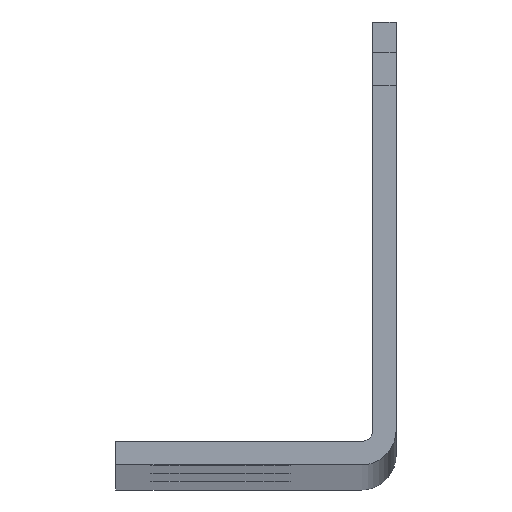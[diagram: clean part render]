
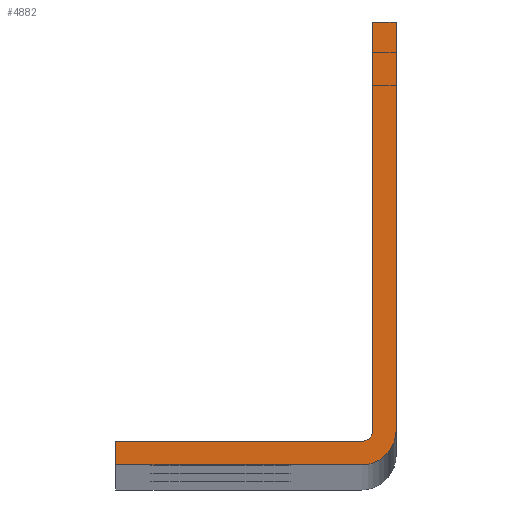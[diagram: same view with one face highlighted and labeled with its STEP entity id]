
A CAD part, top view. The second image highlights one B-rep face of the part: STEP entity #4882.
In plain terms, the highlighted planar face has unit normal (0, 0, 1).
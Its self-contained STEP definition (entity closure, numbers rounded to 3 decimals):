
#238=LINE('',#7483,#466);
#287=LINE('',#7935,#515);
#306=LINE('',#8133,#534);
#307=LINE('',#8137,#535);
#308=LINE('',#8140,#536);
#309=LINE('',#8142,#537);
#466=VECTOR('',#5987,1000.);
#515=VECTOR('',#6390,1000.);
#534=VECTOR('',#6703,1000.);
#535=VECTOR('',#6706,1000.);
#536=VECTOR('',#6709,1000.);
#537=VECTOR('',#6710,1000.);
#1376=ORIENTED_EDGE('',*,*,#2316,.F.);
#1377=ORIENTED_EDGE('',*,*,#2317,.F.);
#1378=ORIENTED_EDGE('',*,*,#2056,.F.);
#1379=ORIENTED_EDGE('',*,*,#2318,.T.);
#1380=ORIENTED_EDGE('',*,*,#2281,.T.);
#1381=ORIENTED_EDGE('',*,*,#2319,.T.);
#1382=ORIENTED_EDGE('',*,*,#2320,.T.);
#1383=ORIENTED_EDGE('',*,*,#2321,.T.);
#2056=EDGE_CURVE('',#2656,#2657,#238,.T.);
#2281=EDGE_CURVE('',#2882,#2880,#287,.T.);
#2316=EDGE_CURVE('',#2914,#2915,#306,.T.);
#2317=EDGE_CURVE('',#2657,#2914,#3304,.T.);
#2318=EDGE_CURVE('',#2656,#2882,#307,.T.);
#2319=EDGE_CURVE('',#2880,#2916,#3305,.F.);
#2320=EDGE_CURVE('',#2916,#2917,#308,.T.);
#2321=EDGE_CURVE('',#2917,#2915,#309,.T.);
#2656=VERTEX_POINT('',#7484);
#2657=VERTEX_POINT('',#7485);
#2880=VERTEX_POINT('',#7933);
#2882=VERTEX_POINT('',#7936);
#2914=VERTEX_POINT('',#8134);
#2915=VERTEX_POINT('',#8135);
#2916=VERTEX_POINT('',#8139);
#2917=VERTEX_POINT('',#8141);
#3304=CIRCLE('',#5496,4.699);
#3305=CIRCLE('',#5497,1.524);
#3881=EDGE_LOOP('',(#1376,#1377,#1378,#1379,#1380,#1381,#1382,#1383));
#4565=FACE_BOUND('',#3881,.T.);
#4693=PLANE('',#5495);
#4882=ADVANCED_FACE('',(#4565),#4693,.T.);
#5495=AXIS2_PLACEMENT_3D('',#8132,#6701,#6702);
#5496=AXIS2_PLACEMENT_3D('',#8136,#6704,#6705);
#5497=AXIS2_PLACEMENT_3D('',#8138,#6707,#6708);
#5987=DIRECTION('',(0.,-1.,0.));
#6390=DIRECTION('',(0.,-1.,0.));
#6701=DIRECTION('',(0.,0.,1.));
#6702=DIRECTION('',(1.,0.,0.));
#6703=DIRECTION('',(-1.,0.,0.));
#6704=DIRECTION('',(0.,0.,-1.));
#6705=DIRECTION('',(0.,1.,0.));
#6706=DIRECTION('',(-1.,0.,0.));
#6707=DIRECTION('',(0.,0.,1.));
#6708=DIRECTION('',(1.,0.,0.));
#6709=DIRECTION('',(-1.,0.,0.));
#6710=DIRECTION('',(0.,-1.,0.));
#7483=CARTESIAN_POINT('',(19.05,2.806,977.9));
#7484=CARTESIAN_POINT('',(19.05,60.223,977.9));
#7485=CARTESIAN_POINT('',(19.05,4.699,977.9));
#7933=CARTESIAN_POINT('',(15.875,4.699,977.9));
#7935=CARTESIAN_POINT('',(15.875,2.806,977.9));
#7936=CARTESIAN_POINT('',(15.875,60.223,977.9));
#8132=CARTESIAN_POINT('',(19.05,3.175,977.9));
#8133=CARTESIAN_POINT('',(19.05,0.,977.9));
#8134=CARTESIAN_POINT('',(14.351,0.,977.9));
#8135=CARTESIAN_POINT('',(-19.05,0.,977.9));
#8136=CARTESIAN_POINT('',(14.351,4.699,977.9));
#8137=CARTESIAN_POINT('',(19.05,60.223,977.9));
#8138=CARTESIAN_POINT('',(14.351,4.699,977.9));
#8139=CARTESIAN_POINT('',(14.351,3.175,977.9));
#8140=CARTESIAN_POINT('',(19.05,3.175,977.9));
#8141=CARTESIAN_POINT('',(-19.05,3.175,977.9));
#8142=CARTESIAN_POINT('',(-19.05,3.175,977.9));
